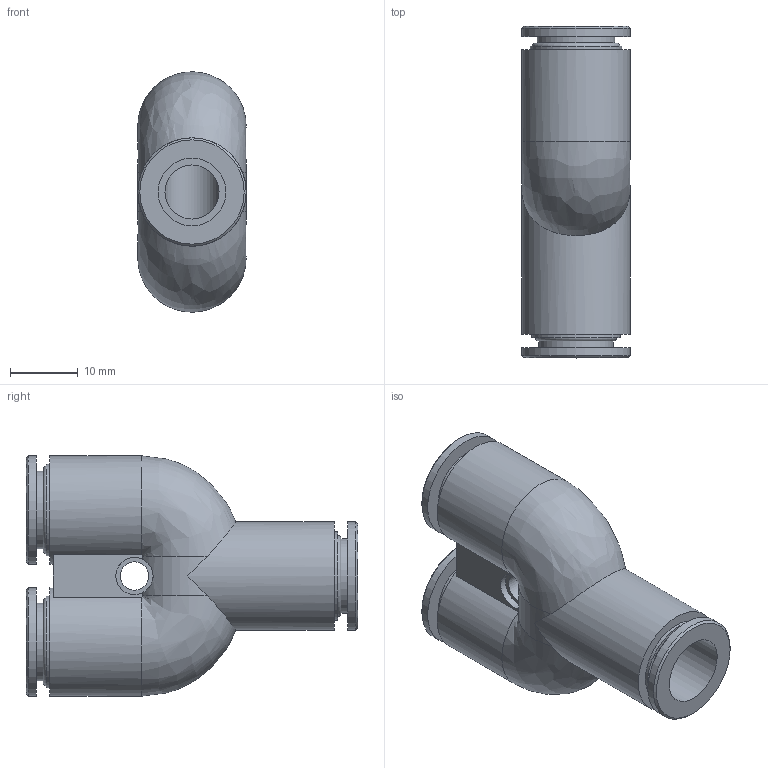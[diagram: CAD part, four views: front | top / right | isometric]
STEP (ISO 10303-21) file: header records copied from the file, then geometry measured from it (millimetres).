
FILE_DESCRIPTION(/* description */ (''),/* implementation_level */ '2;1');
FILE_NAME(/* name */ 'LXH40 1010 00.stp',/* time_stamp */ '2026-05-01T16:15:04+02:00',/* author */ ('freju'),/* organization */ (''),/* preprocessor_version */ 'ST-DEVELOPER v20.1',/* originating_system */ 'Autodesk Inventor 2026',/* authorisation */ '');
FILE_SCHEMA (('AUTOMOTIVE_DESIGN { 1 0 10303 214 3 1 1 }'));
Length unit declared in the file: millimetre
Products named in the file (1): LXH40 1010 00
Bounding box: 16 x 49 x 35.5 mm (x, y, z)
Volume: 9876.9 mm3; surface area: 7331.3 mm2
Topology: 1 solids, 1 shells, 56 faces, 128 edges, 83 vertices
Faces by surface type: cylinder 24, plane 22, bspline 4, torus 3, cone 3
Full cylindrical faces by diameter (mm): 4.2 x1, 5.5 x2, 8 x4, 10 x3, 11 x1, 11.5 x2, 13 x1, 13.5 x2, 16 x6
Entity records: 1799 total; most frequent: CARTESIAN_POINT 435, DIRECTION 308, ORIENTED_EDGE 248, AXIS2_PLACEMENT_3D 136, EDGE_CURVE 124, VERTEX_POINT 83, EDGE_LOOP 75, CIRCLE 75
